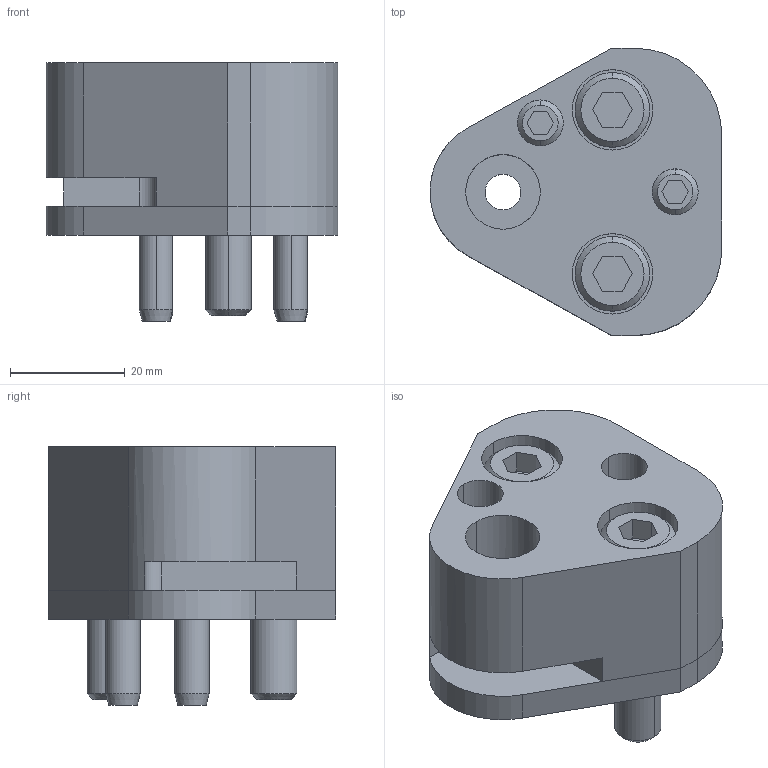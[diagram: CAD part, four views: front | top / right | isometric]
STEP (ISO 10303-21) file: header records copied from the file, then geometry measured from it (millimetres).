
FILE_DESCRIPTION(/* description */ (''),/* implementation_level */ '2;1');
FILE_NAME(/* name */ '3d_25crn-fp13_03151_r00.stp',/* time_stamp */ '2011-01-10T14:17:53+09:00',/* author */ ('MISUMI'),/* organization */ (''),/* preprocessor_version */ 'ST-DEVELOPER v11',/* originating_system */ 'UGS - NX 5.0',/* authorisation */ '');
FILE_SCHEMA (('CONFIG_CONTROL_DESIGN'));
Length unit declared in the file: millimetre
Products named in the file (1): 3d_25crn-fp13_03151_r00
Bounding box: 50.77 x 50 x 45 mm (x, y, z)
Volume: 50740.3 mm3; surface area: 20504.2 mm2
Topology: 8 solids, 8 shells, 156 faces, 358 edges, 231 vertices
Faces by surface type: plane 69, cylinder 61, cone 26
Entity records: 4585 total; most frequent: DIRECTION 815, CARTESIAN_POINT 805, ORIENTED_EDGE 716, EDGE_CURVE 358, AXIS2_PLACEMENT_3D 307, VERTEX_POINT 231, LINE 201, VECTOR 201
